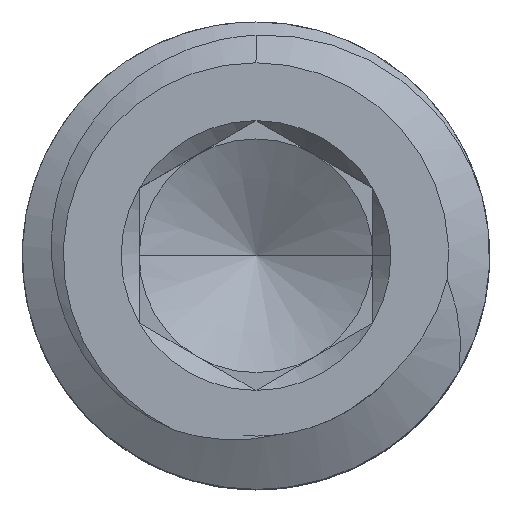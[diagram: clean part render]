
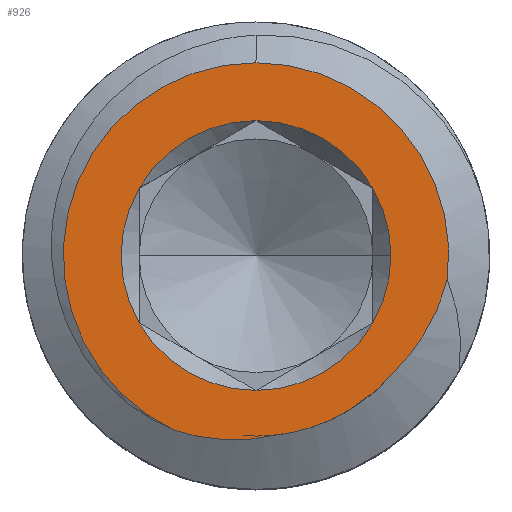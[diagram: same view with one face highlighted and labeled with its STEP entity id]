
A CAD part, top view. The second image highlights one B-rep face of the part: STEP entity #926.
In plain terms, the highlighted planar face has unit normal (0, 0, 1).
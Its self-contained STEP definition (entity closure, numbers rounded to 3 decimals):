
#3 = ORIENTED_EDGE ( 'NONE', *, *, #1795, .F. ) ;
#9 = CARTESIAN_POINT ( 'NONE',  ( 0.284, -1.522, 2.5 ) ) ;
#37 = ORIENTED_EDGE ( 'NONE', *, *, #1128, .T. ) ;
#58 = ORIENTED_EDGE ( 'NONE', *, *, #899, .F. ) ;
#59 = CARTESIAN_POINT ( 'NONE',  ( 0., 0., 2.5 ) ) ;
#65 = CIRCLE ( 'NONE', #1304, 1.155 ) ;
#86 = CARTESIAN_POINT ( 'NONE',  ( 1.2, -0.974, 2.5 ) ) ;
#96 = ORIENTED_EDGE ( 'NONE', *, *, #2182, .F. ) ;
#123 = PLANE ( 'NONE',  #1127 ) ;
#135 = CARTESIAN_POINT ( 'NONE',  ( -0.694, -1.497, 2.5 ) ) ;
#147 = EDGE_CURVE ( 'NONE', #477, #1070, #420, .T. ) ;
#151 = DIRECTION ( 'NONE',  ( 0., -1., 0. ) ) ;
#185 = CARTESIAN_POINT ( 'NONE',  ( -0.108, -1.582, 2.5 ) ) ;
#249 = DIRECTION ( 'NONE',  ( 1., 0., 0. ) ) ;
#275 = EDGE_LOOP ( 'NONE', ( #1318, #396, #1350, #1567, #3, #58, #96 ) ) ;
#278 = AXIS2_PLACEMENT_3D ( 'NONE', #2071, #553, #1224 ) ;
#298 = VERTEX_POINT ( 'NONE', #573 ) ;
#321 = CARTESIAN_POINT ( 'NONE',  ( 0., -1.155, 2.5 ) ) ;
#341 = CARTESIAN_POINT ( 'NONE',  ( 0.568, -1.441, 2.5 ) ) ;
#352 = CARTESIAN_POINT ( 'NONE',  ( 1.074, -1.129, 2.5 ) ) ;
#370 = ORIENTED_EDGE ( 'NONE', *, *, #147, .T. ) ;
#386 = AXIS2_PLACEMENT_3D ( 'NONE', #1348, #1692, #151 ) ;
#392 = CIRCLE ( 'NONE', #884, 1.155 ) ;
#396 = ORIENTED_EDGE ( 'NONE', *, *, #734, .F. ) ;
#420 = CIRCLE ( 'NONE', #386, 1.65 ) ;
#465 = CARTESIAN_POINT ( 'NONE',  ( 1.398, -0.751, 2.5 ) ) ;
#467 = FACE_BOUND ( 'NONE', #275, .T. ) ;
#477 = VERTEX_POINT ( 'NONE', #956 ) ;
#489 = DIRECTION ( 'NONE',  ( 1., 0., 0. ) ) ;
#512 = CARTESIAN_POINT ( 'NONE',  ( 1.2, -0.974, 2.5 ) ) ;
#514 = EDGE_CURVE ( 'NONE', #477, #1131, #1804, .T. ) ;
#553 = DIRECTION ( 'NONE',  ( 0., 0., 1. ) ) ;
#569 = ORIENTED_EDGE ( 'NONE', *, *, #2017, .F. ) ;
#573 = CARTESIAN_POINT ( 'NONE',  ( -1., 0.577, 2.5 ) ) ;
#578 = DIRECTION ( 'NONE',  ( 0., 0., 1. ) ) ;
#682 = ORIENTED_EDGE ( 'NONE', *, *, #2040, .F. ) ;
#687 = CARTESIAN_POINT ( 'NONE',  ( -0.406, -1.569, 2.5 ) ) ;
#733 = ORIENTED_EDGE ( 'NONE', *, *, #514, .F. ) ;
#734 = EDGE_CURVE ( 'NONE', #941, #2015, #1621, .T. ) ;
#755 = CARTESIAN_POINT ( 'NONE',  ( 1.155, 0., 2.5 ) ) ;
#807 = EDGE_CURVE ( 'NONE', #919, #1747, #392, .T. ) ;
#816 = DIRECTION ( 'NONE',  ( 0., 0., 1. ) ) ;
#835 = VERTEX_POINT ( 'NONE', #1838 ) ;
#848 = AXIS2_PLACEMENT_3D ( 'NONE', #2064, #1757, #849 ) ;
#849 = DIRECTION ( 'NONE',  ( 0., -1., 0. ) ) ;
#884 = AXIS2_PLACEMENT_3D ( 'NONE', #2097, #578, #944 ) ;
#899 = EDGE_CURVE ( 'NONE', #1025, #1981, #1341, .T. ) ;
#919 = VERTEX_POINT ( 'NONE', #1148 ) ;
#926 = ADVANCED_FACE ( 'NONE', ( #467, #1312 ), #123, .F. ) ;
#941 = VERTEX_POINT ( 'NONE', #1687 ) ;
#944 = DIRECTION ( 'NONE',  ( 1., 0., 0. ) ) ;
#956 = CARTESIAN_POINT ( 'NONE',  ( 1.637, -0.206, 2.5 ) ) ;
#980 = CARTESIAN_POINT ( 'NONE',  ( 0., 0., 2.5 ) ) ;
#1025 = VERTEX_POINT ( 'NONE', #1883 ) ;
#1070 = VERTEX_POINT ( 'NONE', #2043 ) ;
#1072 = CIRCLE ( 'NONE', #1420, 1.155 ) ;
#1081 = DIRECTION ( 'NONE',  ( 0., 0., 1. ) ) ;
#1100 = CARTESIAN_POINT ( 'NONE',  ( 1.601, -0.35, 2.5 ) ) ;
#1102 = CARTESIAN_POINT ( 'NONE',  ( 0., 0., 2.5 ) ) ;
#1119 = CARTESIAN_POINT ( 'NONE',  ( 1.637, -0.206, 2.5 ) ) ;
#1127 = AXIS2_PLACEMENT_3D ( 'NONE', #1135, #2020, #1996 ) ;
#1128 = EDGE_CURVE ( 'NONE', #1070, #1957, #1801, .T. ) ;
#1131 = VERTEX_POINT ( 'NONE', #1543 ) ;
#1135 = CARTESIAN_POINT ( 'NONE',  ( 0., 0., 2.5 ) ) ;
#1148 = CARTESIAN_POINT ( 'NONE',  ( 1., -0.577, 2.5 ) ) ;
#1163 = CARTESIAN_POINT ( 'NONE',  ( -0.553, -1.542, 2.5 ) ) ;
#1187 = CARTESIAN_POINT ( 'NONE',  ( 0.92, -1.257, 2.5 ) ) ;
#1224 = DIRECTION ( 'NONE',  ( 1., 0., 0. ) ) ;
#1279 = CARTESIAN_POINT ( 'NONE',  ( 0., 0., 2.5 ) ) ;
#1304 = AXIS2_PLACEMENT_3D ( 'NONE', #980, #1467, #1800 ) ;
#1312 = FACE_OUTER_BOUND ( 'NONE', #2006, .T. ) ;
#1318 = ORIENTED_EDGE ( 'NONE', *, *, #1845, .F. ) ;
#1341 = CIRCLE ( 'NONE', #2124, 1.155 ) ;
#1348 = CARTESIAN_POINT ( 'NONE',  ( 0., 0., 2.5 ) ) ;
#1350 = ORIENTED_EDGE ( 'NONE', *, *, #1948, .F. ) ;
#1356 = CARTESIAN_POINT ( 'NONE',  ( 0.185, -1.534, 2.5 ) ) ;
#1365 = B_SPLINE_CURVE_WITH_KNOTS ( 'NONE', 3,
 ( #512, #352, #1187, #1863, #341, #1689, #9, #1356 ),
 .UNSPECIFIED., .F., .F.,
 ( 4, 2, 2, 4 ),
 ( 0., 0.001, 0.001, 0.001 ),
 .UNSPECIFIED. ) ;
#1420 = AXIS2_PLACEMENT_3D ( 'NONE', #59, #1885, #1546 ) ;
#1467 = DIRECTION ( 'NONE',  ( 0., 0., 1. ) ) ;
#1502 = CARTESIAN_POINT ( 'NONE',  ( 0., 1.155, 2.5 ) ) ;
#1543 = CARTESIAN_POINT ( 'NONE',  ( 1.2, -0.974, 2.5 ) ) ;
#1546 = DIRECTION ( 'NONE',  ( 1., 0., 0. ) ) ;
#1567 = ORIENTED_EDGE ( 'NONE', *, *, #807, .F. ) ;
#1598 = CARTESIAN_POINT ( 'NONE',  ( 1.308, -0.869, 2.5 ) ) ;
#1621 = CIRCLE ( 'NONE', #278, 1.155 ) ;
#1655 = AXIS2_PLACEMENT_3D ( 'NONE', #1279, #1963, #249 ) ;
#1687 = CARTESIAN_POINT ( 'NONE',  ( 1., 0.577, 2.5 ) ) ;
#1689 = CARTESIAN_POINT ( 'NONE',  ( 0.38, -1.501, 2.5 ) ) ;
#1692 = DIRECTION ( 'NONE',  ( 0., 0., 1. ) ) ;
#1747 = VERTEX_POINT ( 'NONE', #755 ) ;
#1757 = DIRECTION ( 'NONE',  ( 0., 0., 1. ) ) ;
#1758 = AXIS2_PLACEMENT_3D ( 'NONE', #1102, #1081, #2087 ) ;
#1795 = EDGE_CURVE ( 'NONE', #1981, #919, #1797, .T. ) ;
#1797 = CIRCLE ( 'NONE', #1758, 1.155 ) ;
#1800 = DIRECTION ( 'NONE',  ( 1., 0., 0. ) ) ;
#1801 = CIRCLE ( 'NONE', #848, 1.65 ) ;
#1804 = B_SPLINE_CURVE_WITH_KNOTS ( 'NONE', 3,
 ( #1119, #1100, #2160, #465, #1598, #86 ),
 .UNSPECIFIED., .F., .F.,
 ( 4, 2, 4 ),
 ( 0., 0.001, 0.001 ),
 .UNSPECIFIED. ) ;
#1838 = CARTESIAN_POINT ( 'NONE',  ( 0.185, -1.534, 2.5 ) ) ;
#1845 = EDGE_CURVE ( 'NONE', #2015, #298, #2058, .T. ) ;
#1863 = CARTESIAN_POINT ( 'NONE',  ( 0.66, -1.401, 2.5 ) ) ;
#1872 = B_SPLINE_CURVE_WITH_KNOTS ( 'NONE', 3,
 ( #2035, #2173, #185, #687, #1163, #2185 ),
 .UNSPECIFIED., .F., .F.,
 ( 4, 2, 4 ),
 ( 0., 0., 0.001 ),
 .UNSPECIFIED. ) ;
#1883 = CARTESIAN_POINT ( 'NONE',  ( -1., -0.577, 2.5 ) ) ;
#1885 = DIRECTION ( 'NONE',  ( 0., 0., 1. ) ) ;
#1948 = EDGE_CURVE ( 'NONE', #1747, #941, #65, .T. ) ;
#1957 = VERTEX_POINT ( 'NONE', #135 ) ;
#1963 = DIRECTION ( 'NONE',  ( 0., 0., 1. ) ) ;
#1981 = VERTEX_POINT ( 'NONE', #321 ) ;
#1996 = DIRECTION ( 'NONE',  ( 0., 1., 0. ) ) ;
#2006 = EDGE_LOOP ( 'NONE', ( #733, #370, #37, #569, #682 ) ) ;
#2015 = VERTEX_POINT ( 'NONE', #1502 ) ;
#2017 = EDGE_CURVE ( 'NONE', #835, #1957, #1872, .T. ) ;
#2020 = DIRECTION ( 'NONE',  ( 0., 0., -1. ) ) ;
#2035 = CARTESIAN_POINT ( 'NONE',  ( 0.185, -1.534, 2.5 ) ) ;
#2040 = EDGE_CURVE ( 'NONE', #1131, #835, #1365, .T. ) ;
#2043 = CARTESIAN_POINT ( 'NONE',  ( 0., 1.65, 2.5 ) ) ;
#2058 = CIRCLE ( 'NONE', #1655, 1.155 ) ;
#2064 = CARTESIAN_POINT ( 'NONE',  ( 0., 0., 2.5 ) ) ;
#2071 = CARTESIAN_POINT ( 'NONE',  ( 0., 0., 2.5 ) ) ;
#2087 = DIRECTION ( 'NONE',  ( 1., 0., 0. ) ) ;
#2097 = CARTESIAN_POINT ( 'NONE',  ( 0., 0., 2.5 ) ) ;
#2124 = AXIS2_PLACEMENT_3D ( 'NONE', #2171, #816, #489 ) ;
#2160 = CARTESIAN_POINT ( 'NONE',  ( 1.545, -0.49, 2.5 ) ) ;
#2171 = CARTESIAN_POINT ( 'NONE',  ( 0., 0., 2.5 ) ) ;
#2173 = CARTESIAN_POINT ( 'NONE',  ( 0.039, -1.57, 2.5 ) ) ;
#2182 = EDGE_CURVE ( 'NONE', #298, #1025, #1072, .T. ) ;
#2185 = CARTESIAN_POINT ( 'NONE',  ( -0.694, -1.497, 2.5 ) ) ;
